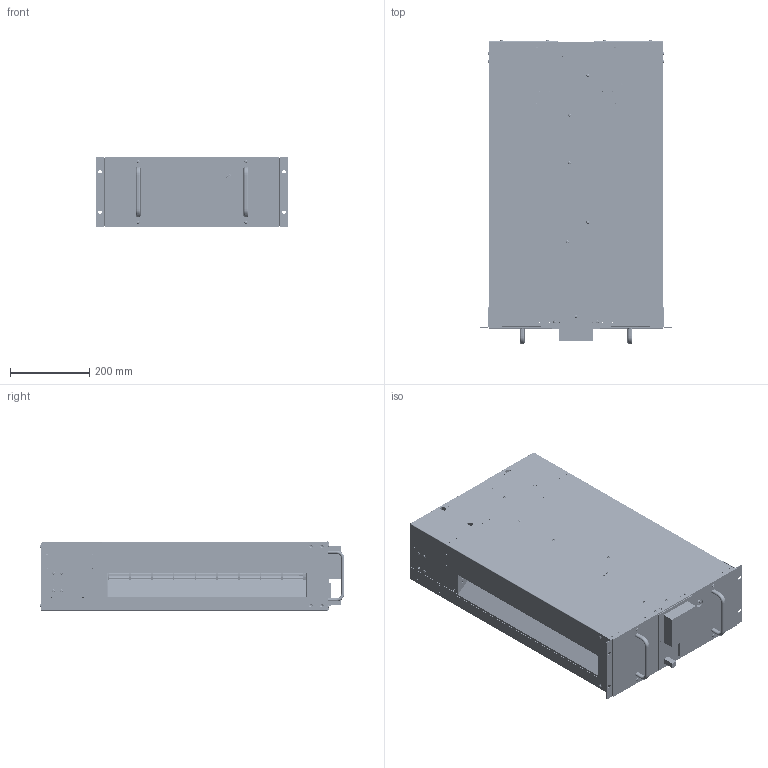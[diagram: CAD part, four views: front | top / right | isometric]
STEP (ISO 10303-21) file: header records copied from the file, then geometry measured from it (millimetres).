
FILE_DESCRIPTION(('CATIA V5 STEP Exchange'),'2;1');
FILE_NAME('C:\Users\sebas\cernbox\WINDOWS\Desktop\TRAINING CATIA\rack peruzzi turbine assembly\final assembly (LONG)\Annex C.stp','2026-05-04T09:28:23+00:00',('none'),('none'),'CATIA Version 5-6 Release 2017 SP6 HF16','CATIA V5 STEP AP203','none');
FILE_SCHEMA(('CONFIG_CONTROL_DESIGN'));
Products named in the file (7): Product main; Assem4; Assem5; Product1; turbine with spacers assembly; Symmetry of Product1; Symmetry of turbine with spacers assembly
Assembly tree (185 placements, depth 4):
  Product main
    #57  x2
    #5067  x2
    #5879  x2
    #6373
    #7774
    #8869
    #9676
    #10362
    #11200
    #13448  x42
    #14454
    #14558
    #20803  x2
    #21953
    #22881
    #24283
    #28007
    #31416
    #34061
    #36812
    #40177  x8
    #41966
    #43917
    #46243
    #48434  x2
    #49207  x2
    #50774  x2
    #64752
    #66378
    #67439  x2
    #68271
    #72304  x2
    #72904  x2
    Assem4
      #73362
      #75507
    Assem5
      #76109
      #151992
    Product1
      #154776
      #162476
      turbine with spacers assembly
        #162659
        #191643
        #192058
        #192837
        #192989
        #193549
      #193975
      #195684
      #196211
      #197458
      #198480
      #199109
      #201447  x2
      #203798
      #206136
      #209811
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Bounding box: 482.5 x 767.7 x 177 mm (x, y, z)
Volume: 10470606.3 mm3; surface area: 5030924.2 mm2
Topology: 178 solids, 180 shells, 11371 faces, 32297 edges, 21424 vertices
Faces by surface type: plane 5748, cylinder 4992, torus 234, cone 223, bspline 102, sphere 68, revolution 4
Entity records: 277453 total; most frequent: CARTESIAN_POINT 58202, ORIENTED_EDGE 51438, DIRECTION 32095, EDGE_CURVE 25719, VERTEX_POINT 17141, VECTOR 16218, LINE 16218, EDGE_LOOP 12276
